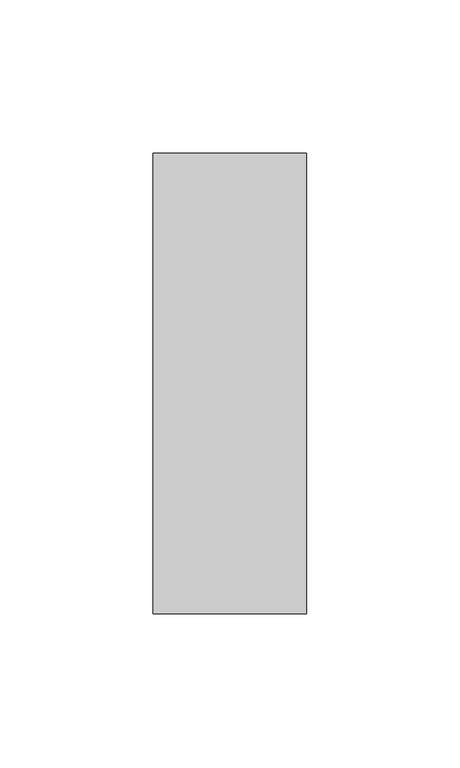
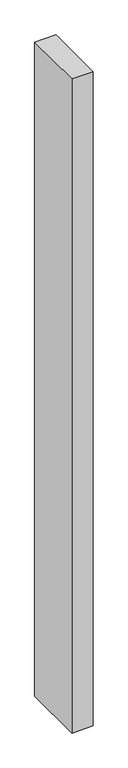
"""IFC4 building model written with IfcOpenShell, lengths in millimetres: member geometry, Прямоугольный импост : 50х150мм."""

from ifc_helpers import new_model, si_unit, frame, origin, place, context, project, spatial, polyline, outline, extrude, source, transform, mapped, element, save


def member_bd199250(model_context):
    return source(origin(), model_context, "Body", "SweptSolid", [
        extrude(outline(polyline([(0.0, 75.0), (0.0, -75.0), (-50.0, -75.0), (-50.0, 75.0), (0.0, 75.0)])), frame((0.0, 0.0, -1613.6336859), z_axis=(0.0, 0.0, 1.0), x_axis=(1.0, 0.0, 0.0)), (0.0, 0.0, 1.0), 1613.6336859),
    ])


if __name__ == "__main__":
    model = new_model("IFC4")
    model_context = context("Model", 3, world=origin())
    ifc_project = project(units=[si_unit("LENGTHUNIT", "METRE", prefix="MILLI")], contexts=[model_context])
    site = spatial("IfcSite", under=ifc_project)
    building = spatial("IfcBuilding", under=site)
    placement = place(None, origin())
    member_shape = member_bd199250(model_context)
    element("IfcMember", 1, ObjectType="Прямоугольный импост : 50х150мм", at=placement, inside=building, context=model_context, shape_type="MappedRepresentation", body=[
        mapped(member_shape, transform((0.0, 0.0, 0.0), x_axis=(1.0, 0.0, 0.0), y_axis=(0.0, 1.0, 0.0), z_axis=(0.0, 0.0, 1.0))),
    ])
    save(model, "model.ifc")
